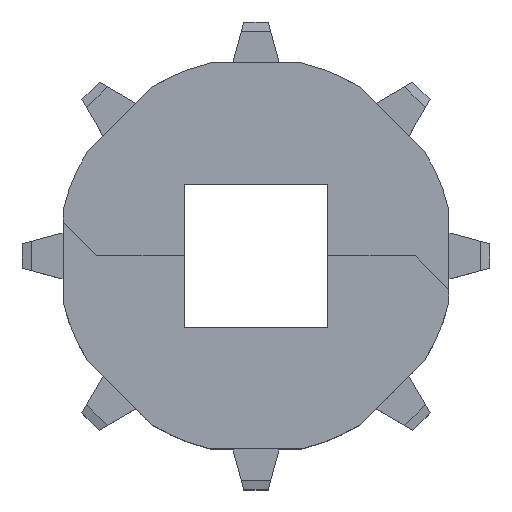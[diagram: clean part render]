
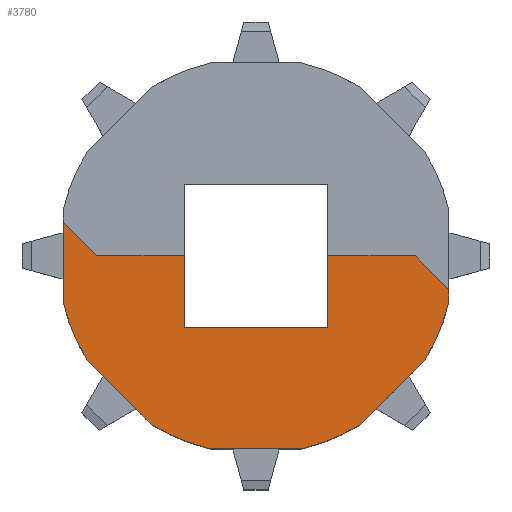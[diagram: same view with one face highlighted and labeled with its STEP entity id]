
A CAD part, top view. The second image highlights one B-rep face of the part: STEP entity #3780.
In plain terms, the highlighted planar face has unit normal (0, 0, 1).
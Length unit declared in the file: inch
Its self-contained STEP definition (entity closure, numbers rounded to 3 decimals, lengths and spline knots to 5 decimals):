
#2517=CARTESIAN_POINT('',(0.,0.,0.95));
#2518=DIRECTION('',(0.,0.,1.));
#2519=DIRECTION('',(0.526,0.851,0.));
#2520=AXIS2_PLACEMENT_3D('',#2517,#2518,#2519);
#2527=DIRECTION('',(0.,1.,0.));
#2528=VECTOR('',#2527,0.7875);
#2529=CARTESIAN_POINT('',(0.7875,0.,0.95));
#2530=LINE('',#2529,#2528);
#2531=DIRECTION('',(-1.,0.,0.));
#2532=VECTOR('',#2531,1.575);
#2533=CARTESIAN_POINT('',(0.7875,0.7875,0.95));
#2534=LINE('',#2533,#2532);
#2535=DIRECTION('',(0.,1.,0.));
#2536=VECTOR('',#2535,0.7875);
#2537=CARTESIAN_POINT('',(-0.7875,0.,0.95));
#2538=LINE('',#2537,#2536);
#2539=DIRECTION('',(-1.,0.,0.));
#2540=VECTOR('',#2539,0.9625);
#2541=CARTESIAN_POINT('',(-0.7875,0.,0.95));
#2542=LINE('',#2541,#2540);
#2543=DIRECTION('',(0.707,-0.707,0.));
#2544=VECTOR('',#2543,0.523);
#2545=CARTESIAN_POINT('',(-2.11982,0.36982,0.95));
#2546=LINE('',#2545,#2544);
#2547=DIRECTION('',(0.,1.,0.));
#2548=VECTOR('',#2547,0.13018);
#2549=CARTESIAN_POINT('',(-2.11982,0.36982,0.95));
#2550=LINE('',#2549,#2548);
#2551=DIRECTION('',(-0.707,-0.707,0.));
#2552=VECTOR('',#2551,1.);
#2553=CARTESIAN_POINT('',(-1.14539,1.85249,0.95));
#2554=LINE('',#2553,#2552);
#2555=DIRECTION('',(1.,0.,0.));
#2556=VECTOR('',#2555,1.);
#2557=CARTESIAN_POINT('',(-0.5,2.11982,0.95));
#2558=LINE('',#2557,#2556);
#2559=DIRECTION('',(-0.707,0.707,0.));
#2560=VECTOR('',#2559,1.);
#2561=CARTESIAN_POINT('',(1.85249,1.14539,0.95));
#2562=LINE('',#2561,#2560);
#2563=DIRECTION('',(0.,-1.,0.));
#2564=VECTOR('',#2563,0.86982);
#2565=CARTESIAN_POINT('',(2.11982,0.5,0.95));
#2566=LINE('',#2565,#2564);
#2567=DIRECTION('',(-0.707,0.707,0.));
#2568=VECTOR('',#2567,0.523);
#2569=CARTESIAN_POINT('',(2.11982,-0.36982,0.95));
#2570=LINE('',#2569,#2568);
#2571=DIRECTION('',(-1.,0.,0.));
#2572=VECTOR('',#2571,0.9625);
#2573=CARTESIAN_POINT('',(1.75,0.,0.95));
#2574=LINE('',#2573,#2572);
#2587=CARTESIAN_POINT('',(0.,0.,0.95));
#2588=DIRECTION('',(0.,0.,1.));
#2589=DIRECTION('',(-0.851,0.526,0.));
#2590=AXIS2_PLACEMENT_3D('',#2587,#2588,#2589);
#2759=CARTESIAN_POINT('',(0.,0.,0.95));
#2760=DIRECTION('',(0.,0.,1.));
#2761=DIRECTION('',(-0.23,0.973,0.));
#2762=AXIS2_PLACEMENT_3D('',#2759,#2760,#2761);
#2862=CARTESIAN_POINT('',(0.,0.,0.95));
#2863=DIRECTION('',(0.,0.,1.));
#2864=DIRECTION('',(0.973,0.23,0.));
#2865=AXIS2_PLACEMENT_3D('',#2862,#2863,#2864);
#3080=CARTESIAN_POINT('',(-0.5,2.11982,0.95));
#3082=VERTEX_POINT('',#3080);
#3084=CARTESIAN_POINT('',(0.5,2.11982,0.95));
#3086=VERTEX_POINT('',#3084);
#3087=CARTESIAN_POINT('',(-1.85249,1.14539,0.95));
#3089=VERTEX_POINT('',#3087);
#3091=CARTESIAN_POINT('',(-1.14539,1.85249,0.95));
#3092=VERTEX_POINT('',#3091);
#3096=CARTESIAN_POINT('',(-2.11982,0.5,0.95));
#3098=VERTEX_POINT('',#3096);
#3100=CARTESIAN_POINT('',(2.11982,0.5,0.95));
#3102=VERTEX_POINT('',#3100);
#3103=CARTESIAN_POINT('',(1.85249,1.14539,0.95));
#3105=VERTEX_POINT('',#3103);
#3107=CARTESIAN_POINT('',(1.14539,1.85249,0.95));
#3108=VERTEX_POINT('',#3107);
#3117=CARTESIAN_POINT('',(2.11982,-0.36982,0.95));
#3118=CARTESIAN_POINT('',(1.75,0.,0.95));
#3119=VERTEX_POINT('',#3117);
#3120=VERTEX_POINT('',#3118);
#3121=CARTESIAN_POINT('',(-2.11982,0.36982,0.95));
#3122=CARTESIAN_POINT('',(-1.75,0.,0.95));
#3123=VERTEX_POINT('',#3121);
#3124=VERTEX_POINT('',#3122);
#3275=CARTESIAN_POINT('',(0.7875,0.,0.95));
#3276=CARTESIAN_POINT('',(0.7875,0.7875,0.95));
#3277=VERTEX_POINT('',#3275);
#3278=VERTEX_POINT('',#3276);
#3279=CARTESIAN_POINT('',(-0.7875,0.7875,0.95));
#3280=VERTEX_POINT('',#3279);
#3281=CARTESIAN_POINT('',(-0.7875,0.,0.95));
#3282=VERTEX_POINT('',#3281);
#3748=CARTESIAN_POINT('',(0.,0.,0.95));
#3749=DIRECTION('',(0.,0.,1.));
#3750=DIRECTION('',(1.,0.,0.));
#3751=AXIS2_PLACEMENT_3D('',#3748,#3749,#3750);
#3752=PLANE('',#3751);
#3753=ORIENTED_EDGE('',*,*,#3331,.T.);
#3754=ORIENTED_EDGE('',*,*,#3346,.T.);
#3755=ORIENTED_EDGE('',*,*,#3360,.F.);
#3756=ORIENTED_EDGE('',*,*,#3401,.T.);
#3758=ORIENTED_EDGE('',*,*,#3757,.F.);
#3760=ORIENTED_EDGE('',*,*,#3759,.T.);
#3762=ORIENTED_EDGE('',*,*,#3761,.F.);
#3764=ORIENTED_EDGE('',*,*,#3763,.F.);
#3766=ORIENTED_EDGE('',*,*,#3765,.F.);
#3768=ORIENTED_EDGE('',*,*,#3767,.T.);
#3769=ORIENTED_EDGE('',*,*,#3739,.F.);
#3770=ORIENTED_EDGE('',*,*,#3611,.F.);
#3772=ORIENTED_EDGE('',*,*,#3771,.F.);
#3774=ORIENTED_EDGE('',*,*,#3773,.T.);
#3776=ORIENTED_EDGE('',*,*,#3775,.T.);
#3777=ORIENTED_EDGE('',*,*,#3372,.T.);
#3778=EDGE_LOOP('',(#3753,#3754,#3755,#3756,#3758,#3760,#3762,#3764,#3766,#3768,
#3769,#3770,#3772,#3774,#3776,#3777));
#3779=FACE_OUTER_BOUND('',#3778,.F.);
#3780=ADVANCED_FACE('',(#3779),#3752,.T.);
#2521=CIRCLE('',#2520,2.17799);
#2591=CIRCLE('',#2590,2.17799);
#2763=CIRCLE('',#2762,2.17799);
#2866=CIRCLE('',#2865,2.17799);
#3331=EDGE_CURVE('',#3277,#3278,#2530,.T.);
#3346=EDGE_CURVE('',#3278,#3280,#2534,.T.);
#3360=EDGE_CURVE('',#3282,#3280,#2538,.T.);
#3372=EDGE_CURVE('',#3120,#3277,#2574,.T.);
#3401=EDGE_CURVE('',#3282,#3124,#2542,.T.);
#3611=EDGE_CURVE('',#3105,#3108,#2562,.T.);
#3739=EDGE_CURVE('',#3108,#3086,#2521,.T.);
#3757=EDGE_CURVE('',#3123,#3124,#2546,.T.);
#3759=EDGE_CURVE('',#3123,#3098,#2550,.T.);
#3761=EDGE_CURVE('',#3089,#3098,#2591,.T.);
#3763=EDGE_CURVE('',#3092,#3089,#2554,.T.);
#3765=EDGE_CURVE('',#3082,#3092,#2763,.T.);
#3767=EDGE_CURVE('',#3082,#3086,#2558,.T.);
#3771=EDGE_CURVE('',#3102,#3105,#2866,.T.);
#3773=EDGE_CURVE('',#3102,#3119,#2566,.T.);
#3775=EDGE_CURVE('',#3119,#3120,#2570,.T.);
